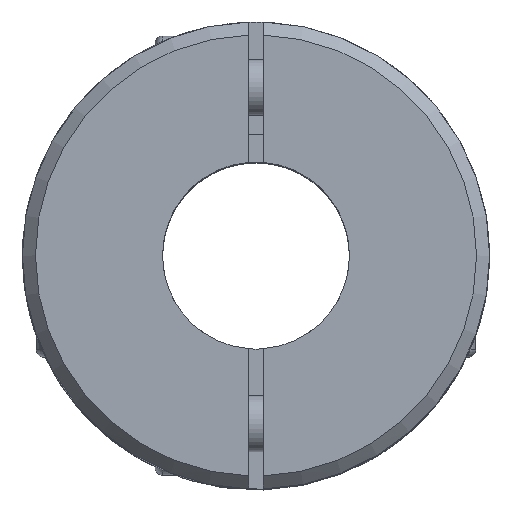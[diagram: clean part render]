
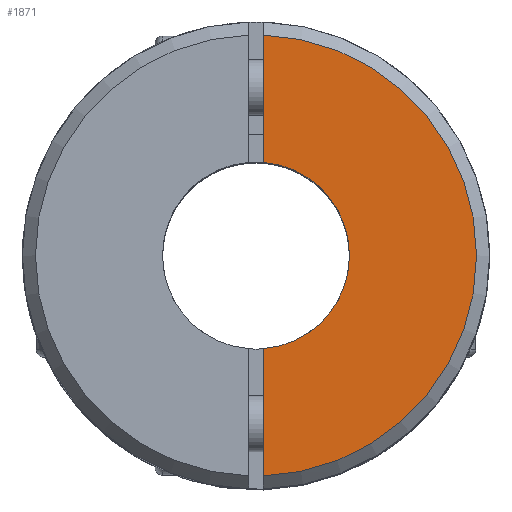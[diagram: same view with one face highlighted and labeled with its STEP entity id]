
A CAD part, top view. The second image highlights one B-rep face of the part: STEP entity #1871.
In plain terms, the highlighted planar face has unit normal (0, 0, 1).
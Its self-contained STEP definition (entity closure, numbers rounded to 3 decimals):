
#109 = ORIENTED_EDGE ( 'NONE', *, *, #4286, .T. ) ;
#216 = ORIENTED_EDGE ( 'NONE', *, *, #3882, .F. ) ;
#369 = VECTOR ( 'NONE', #425, 1000. ) ;
#425 = DIRECTION ( 'NONE',  ( 0., -1., 0. ) ) ;
#498 = DIRECTION ( 'NONE',  ( 0., 1., 0. ) ) ;
#584 = AXIS2_PLACEMENT_3D ( 'NONE', #2803, #3817, #966 ) ;
#770 = CARTESIAN_POINT ( 'NONE',  ( 0.4, 15., 15.5 ) ) ;
#966 = DIRECTION ( 'NONE',  ( 0., -1., 0. ) ) ;
#1052 = DIRECTION ( 'NONE',  ( 0., 0., 1. ) ) ;
#1074 = VERTEX_POINT ( 'NONE', #2816 ) ;
#1092 = PLANE ( 'NONE',  #3452 ) ;
#1166 = VECTOR ( 'NONE', #3947, 1000. ) ;
#1258 = LINE ( 'NONE', #3670, #1166 ) ;
#1423 = EDGE_CURVE ( 'NONE', #2558, #3514, #2678, .T. ) ;
#1871 = ADVANCED_FACE ( 'NONE', ( #3576 ), #1092, .F. ) ;
#1963 = CARTESIAN_POINT ( 'NONE',  ( 0.4, -11.793, 15.5 ) ) ;
#2146 = LINE ( 'NONE', #770, #369 ) ;
#2361 = CARTESIAN_POINT ( 'NONE',  ( 0., 0., 15.5 ) ) ;
#2558 = VERTEX_POINT ( 'NONE', #1963 ) ;
#2678 = CIRCLE ( 'NONE', #3586, 11.8 ) ;
#2803 = CARTESIAN_POINT ( 'NONE',  ( 0., 0., 15.5 ) ) ;
#2810 = CARTESIAN_POINT ( 'NONE',  ( 0.4, 11.793, 15.5 ) ) ;
#2816 = CARTESIAN_POINT ( 'NONE',  ( 0.4, -4.984, 15.5 ) ) ;
#2904 = VERTEX_POINT ( 'NONE', #4470 ) ;
#3429 = EDGE_CURVE ( 'NONE', #1074, #2558, #2146, .T. ) ;
#3452 = AXIS2_PLACEMENT_3D ( 'NONE', #3936, #3598, #498 ) ;
#3474 = DIRECTION ( 'NONE',  ( 0., 1., 0. ) ) ;
#3514 = VERTEX_POINT ( 'NONE', #2810 ) ;
#3576 = FACE_OUTER_BOUND ( 'NONE', #4108, .T. ) ;
#3586 = AXIS2_PLACEMENT_3D ( 'NONE', #2361, #1052, #3474 ) ;
#3598 = DIRECTION ( 'NONE',  ( 0., 0., -1. ) ) ;
#3670 = CARTESIAN_POINT ( 'NONE',  ( 0.4, 15., 15.5 ) ) ;
#3817 = DIRECTION ( 'NONE',  ( 0., 0., 1. ) ) ;
#3882 = EDGE_CURVE ( 'NONE', #1074, #2904, #4487, .T. ) ;
#3936 = CARTESIAN_POINT ( 'NONE',  ( 0., 5., 15.5 ) ) ;
#3947 = DIRECTION ( 'NONE',  ( 0., -1., 0. ) ) ;
#4108 = EDGE_LOOP ( 'NONE', ( #4123, #4482, #109, #216 ) ) ;
#4123 = ORIENTED_EDGE ( 'NONE', *, *, #3429, .T. ) ;
#4286 = EDGE_CURVE ( 'NONE', #3514, #2904, #1258, .T. ) ;
#4470 = CARTESIAN_POINT ( 'NONE',  ( 0.4, 4.984, 15.5 ) ) ;
#4482 = ORIENTED_EDGE ( 'NONE', *, *, #1423, .T. ) ;
#4487 = CIRCLE ( 'NONE', #584, 5. ) ;
